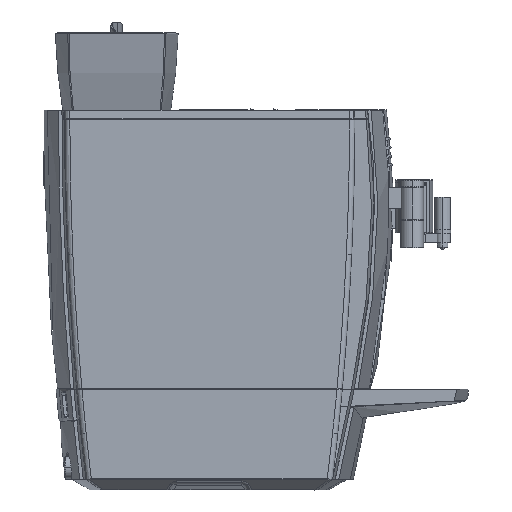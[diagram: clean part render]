
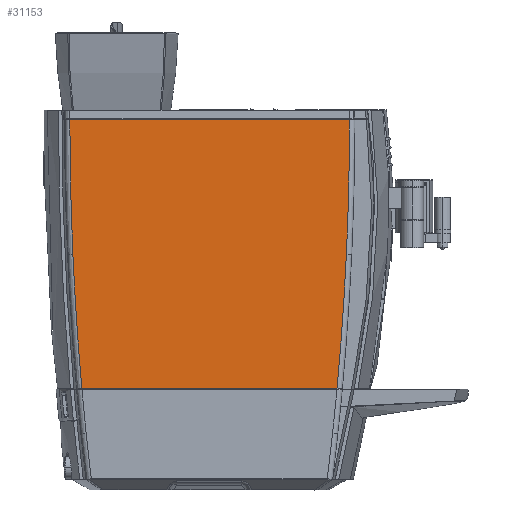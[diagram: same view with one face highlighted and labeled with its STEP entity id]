
A CAD part, left-side view. The second image highlights one B-rep face of the part: STEP entity #31153.
In plain terms, the highlighted planar face has unit normal (-1, 0, 0).
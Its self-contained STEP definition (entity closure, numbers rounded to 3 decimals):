
#4898 = PLANE ( 'NONE',  #119632 ) ;
#4918 = CARTESIAN_POINT ( 'NONE',  ( -240., -194.595, 1149. ) ) ;
#4919 = DIRECTION ( 'NONE',  ( 1., 0., 0. ) ) ;
#4920 = DIRECTION ( 'NONE',  ( 0., -1., 0. ) ) ;
#5845 = VECTOR ( 'NONE', #25520, 1000. ) ;
#5846 = LINE ( 'NONE', #25519, #5845 ) ;
#5852 = CIRCLE ( 'NONE', #117553, 3522.06 ) ;
#6007 = FACE_OUTER_BOUND ( 'NONE', #88890, .T. ) ;
#25519 = CARTESIAN_POINT ( 'NONE',  ( -240., -172.298, 35.5 ) ) ;
#25520 = DIRECTION ( 'NONE',  ( 0., 1., 0. ) ) ;
#25530 = CARTESIAN_POINT ( 'NONE',  ( -240., -3146.5, 349. ) ) ;
#25531 = DIRECTION ( 'NONE',  ( 1., 0., 0. ) ) ;
#25532 = DIRECTION ( 'NONE',  ( 0., 0., -1. ) ) ;
#27151 = CIRCLE ( 'NONE', #117682, 3375.529 ) ;
#27196 = CIRCLE ( 'NONE', #117736, 3375.529 ) ;
#27331 = CIRCLE ( 'NONE', #117835, 3522.06 ) ;
#27415 = LINE ( 'NONE', #30243, #27437 ) ;
#27437 = VECTOR ( 'NONE', #30253, 1000. ) ;
#29786 = CARTESIAN_POINT ( 'NONE',  ( -240., 3425.161, 349. ) ) ;
#29788 = DIRECTION ( 'NONE',  ( 1., 0., 0. ) ) ;
#29790 = DIRECTION ( 'NONE',  ( 0., 0., -1. ) ) ;
#29869 = CARTESIAN_POINT ( 'NONE',  ( -240., 3425.161, 349. ) ) ;
#29870 = DIRECTION ( 'NONE',  ( 1., 0., 0. ) ) ;
#29871 = DIRECTION ( 'NONE',  ( 0., 0., -1. ) ) ;
#30083 = CARTESIAN_POINT ( 'NONE',  ( -240., -3146.5, 349. ) ) ;
#30084 = DIRECTION ( 'NONE',  ( 1., 0., 0. ) ) ;
#30085 = DIRECTION ( 'NONE',  ( 0., 0., -1. ) ) ;
#30243 = CARTESIAN_POINT ( 'NONE',  ( -240., 381.76, 349. ) ) ;
#30253 = DIRECTION ( 'NONE',  ( 0., -1., 0. ) ) ;
#31153 = ADVANCED_FACE ( 'NONE', ( #6007 ), #4898, .F. ) ;
#35555 = CARTESIAN_POINT ( 'NONE',  ( -240., 361.58, 35.5 ) ) ;
#35559 = CARTESIAN_POINT ( 'NONE',  ( -240., 64.222, 35.5 ) ) ;
#35560 = CARTESIAN_POINT ( 'NONE',  ( -240., 372.064, 192.12 ) ) ;
#35621 = CARTESIAN_POINT ( 'NONE',  ( -240., 49.633, 349. ) ) ;
#35626 = CARTESIAN_POINT ( 'NONE',  ( -240., 53.28, 192.118 ) ) ;
#35663 = CARTESIAN_POINT ( 'NONE',  ( -240., 375.56, 349. ) ) ;
#49171 = EDGE_CURVE ( 'NONE', #49931, #49927, #5846, .T. ) ;
#49182 = EDGE_CURVE ( 'NONE', #49927, #49932, #5852, .T. ) ;
#49345 = EDGE_CURVE ( 'NONE', #49993, #49998, #27151, .T. ) ;
#49384 = EDGE_CURVE ( 'NONE', #49998, #49931, #27196, .T. ) ;
#49443 = EDGE_CURVE ( 'NONE', #49932, #50035, #27331, .T. ) ;
#49479 = EDGE_CURVE ( 'NONE', #50035, #49993, #27415, .T. ) ;
#49927 = VERTEX_POINT ( 'NONE', #35555 ) ;
#49931 = VERTEX_POINT ( 'NONE', #35559 ) ;
#49932 = VERTEX_POINT ( 'NONE', #35560 ) ;
#49993 = VERTEX_POINT ( 'NONE', #35621 ) ;
#49998 = VERTEX_POINT ( 'NONE', #35626 ) ;
#50035 = VERTEX_POINT ( 'NONE', #35663 ) ;
#51445 = ORIENTED_EDGE ( 'NONE', *, *, #49171, .F. ) ;
#51446 = ORIENTED_EDGE ( 'NONE', *, *, #49384, .F. ) ;
#51447 = ORIENTED_EDGE ( 'NONE', *, *, #49345, .F. ) ;
#51448 = ORIENTED_EDGE ( 'NONE', *, *, #49479, .F. ) ;
#51449 = ORIENTED_EDGE ( 'NONE', *, *, #49443, .F. ) ;
#51450 = ORIENTED_EDGE ( 'NONE', *, *, #49182, .F. ) ;
#88890 = EDGE_LOOP ( 'NONE', ( #51445, #51446, #51447, #51448, #51449, #51450 ) ) ;
#117553 = AXIS2_PLACEMENT_3D ( 'NONE', #25530, #25531, #25532 ) ;
#117682 = AXIS2_PLACEMENT_3D ( 'NONE', #29786, #29788, #29790 ) ;
#117736 = AXIS2_PLACEMENT_3D ( 'NONE', #29869, #29870, #29871 ) ;
#117835 = AXIS2_PLACEMENT_3D ( 'NONE', #30083, #30084, #30085 ) ;
#119632 = AXIS2_PLACEMENT_3D ( 'NONE', #4918, #4919, #4920 ) ;
